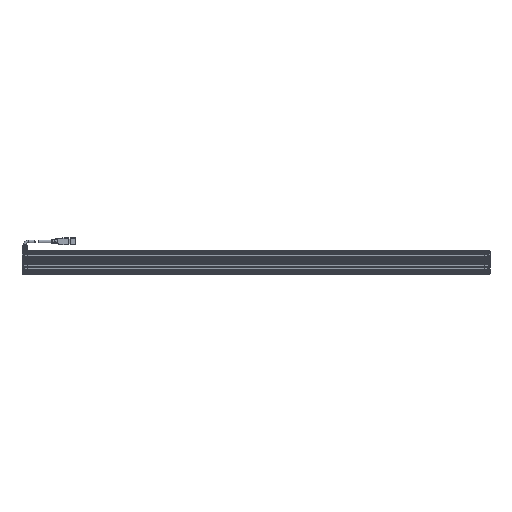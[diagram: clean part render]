
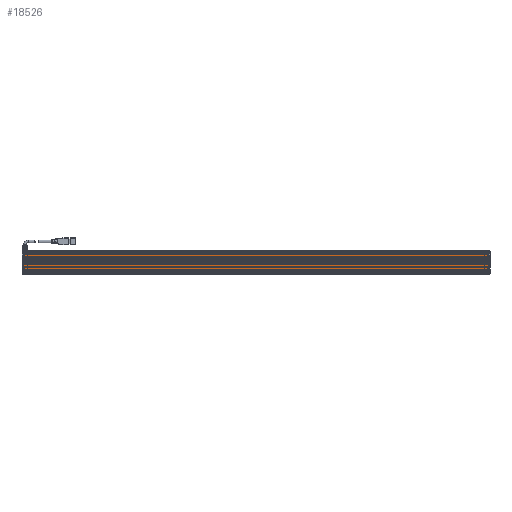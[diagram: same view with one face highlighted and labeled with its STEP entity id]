
A CAD part, front view. The second image highlights one B-rep face of the part: STEP entity #18526.
In plain terms, the highlighted planar face has unit normal (0, -1, 0).
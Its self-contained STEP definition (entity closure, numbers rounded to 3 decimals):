
#111 = ORIENTED_EDGE ( 'NONE', *, *, #5428, .F. ) ;
#325 = VERTEX_POINT ( 'NONE', #8351 ) ;
#560 = EDGE_LOOP ( 'NONE', ( #111, #10983, #11032, #6201 ) ) ;
#934 = AXIS2_PLACEMENT_3D ( 'NONE', #13568, #12241, #4583 ) ;
#1092 = LINE ( 'NONE', #4118, #3653 ) ;
#1277 = EDGE_CURVE ( 'NONE', #13866, #12009, #5591, .T. ) ;
#1323 = VECTOR ( 'NONE', #2412, 1000. ) ;
#1531 = AXIS2_PLACEMENT_3D ( 'NONE', #4720, #9440, #15321 ) ;
#1820 = DIRECTION ( 'NONE',  ( 0., 1., 0. ) ) ;
#2362 = EDGE_CURVE ( 'NONE', #16977, #15222, #7870, .T. ) ;
#2412 = DIRECTION ( 'NONE',  ( 0., 0., 1. ) ) ;
#2452 = EDGE_CURVE ( 'NONE', #15222, #12494, #1092, .T. ) ;
#2480 = VERTEX_POINT ( 'NONE', #7110 ) ;
#2651 = DIRECTION ( 'NONE',  ( 0., -1., 0. ) ) ;
#2711 = EDGE_CURVE ( 'NONE', #2480, #325, #3170, .T. ) ;
#2912 = CARTESIAN_POINT ( 'NONE',  ( -8.244, 13.478, 200. ) ) ;
#3170 = CIRCLE ( 'NONE', #15385, 1.3 ) ;
#3212 = AXIS2_PLACEMENT_3D ( 'NONE', #12124, #9161, #13581 ) ;
#3445 = DIRECTION ( 'NONE',  ( 0., 0., -1. ) ) ;
#3653 = VECTOR ( 'NONE', #13306, 1000. ) ;
#3680 = ORIENTED_EDGE ( 'NONE', *, *, #2711, .T. ) ;
#3796 = CARTESIAN_POINT ( 'NONE',  ( -366.244, 13.478, 216.6 ) ) ;
#3803 = CARTESIAN_POINT ( 'NONE',  ( 349.756, 13.478, 183.4 ) ) ;
#3866 = CARTESIAN_POINT ( 'NONE',  ( -366.244, 13.478, 183.4 ) ) ;
#4118 = CARTESIAN_POINT ( 'NONE',  ( -366.244, 13.478, 216.6 ) ) ;
#4355 = PLANE ( 'NONE',  #15110 ) ;
#4550 = CARTESIAN_POINT ( 'NONE',  ( -366.244, 13.478, 216.6 ) ) ;
#4583 = DIRECTION ( 'NONE',  ( 0., 0., 1. ) ) ;
#4720 = CARTESIAN_POINT ( 'NONE',  ( 346.756, 13.478, 200. ) ) ;
#5044 = CARTESIAN_POINT ( 'NONE',  ( 346.756, 13.478, 198.7 ) ) ;
#5171 = FACE_OUTER_BOUND ( 'NONE', #560, .T. ) ;
#5307 = ORIENTED_EDGE ( 'NONE', *, *, #10272, .T. ) ;
#5428 = EDGE_CURVE ( 'NONE', #12494, #15579, #18172, .T. ) ;
#5591 = CIRCLE ( 'NONE', #934, 1.3 ) ;
#6201 = ORIENTED_EDGE ( 'NONE', *, *, #7749, .F. ) ;
#7110 = CARTESIAN_POINT ( 'NONE',  ( -363.244, 13.478, 198.7 ) ) ;
#7127 = LINE ( 'NONE', #3866, #11884 ) ;
#7382 = ORIENTED_EDGE ( 'NONE', *, *, #12763, .T. ) ;
#7694 = CARTESIAN_POINT ( 'NONE',  ( -363.244, 13.478, 200. ) ) ;
#7749 = EDGE_CURVE ( 'NONE', #15579, #16977, #7127, .T. ) ;
#7870 = LINE ( 'NONE', #3796, #1323 ) ;
#7874 = CIRCLE ( 'NONE', #1531, 1.3 ) ;
#8114 = EDGE_LOOP ( 'NONE', ( #5307, #8759 ) ) ;
#8261 = CARTESIAN_POINT ( 'NONE',  ( 349.756, 13.478, 216.6 ) ) ;
#8351 = CARTESIAN_POINT ( 'NONE',  ( -363.244, 13.478, 201.3 ) ) ;
#8759 = ORIENTED_EDGE ( 'NONE', *, *, #1277, .T. ) ;
#9161 = DIRECTION ( 'NONE',  ( 0., 1., 0. ) ) ;
#9440 = DIRECTION ( 'NONE',  ( 0., 1., 0. ) ) ;
#9892 = DIRECTION ( 'NONE',  ( -1., 0., 0. ) ) ;
#10211 = EDGE_LOOP ( 'NONE', ( #3680, #7382 ) ) ;
#10272 = EDGE_CURVE ( 'NONE', #12009, #13866, #7874, .T. ) ;
#10983 = ORIENTED_EDGE ( 'NONE', *, *, #2452, .F. ) ;
#11032 = ORIENTED_EDGE ( 'NONE', *, *, #2362, .F. ) ;
#11276 = VECTOR ( 'NONE', #19162, 1000. ) ;
#11884 = VECTOR ( 'NONE', #9892, 1000. ) ;
#12009 = VERTEX_POINT ( 'NONE', #5044 ) ;
#12124 = CARTESIAN_POINT ( 'NONE',  ( -363.244, 13.478, 200. ) ) ;
#12241 = DIRECTION ( 'NONE',  ( 0., 1., 0. ) ) ;
#12422 = CIRCLE ( 'NONE', #3212, 1.3 ) ;
#12494 = VERTEX_POINT ( 'NONE', #8261 ) ;
#12743 = FACE_BOUND ( 'NONE', #10211, .T. ) ;
#12763 = EDGE_CURVE ( 'NONE', #325, #2480, #12422, .T. ) ;
#13225 = FACE_BOUND ( 'NONE', #8114, .T. ) ;
#13306 = DIRECTION ( 'NONE',  ( 1., 0., 0. ) ) ;
#13568 = CARTESIAN_POINT ( 'NONE',  ( 346.756, 13.478, 200. ) ) ;
#13581 = DIRECTION ( 'NONE',  ( 0., 0., -1. ) ) ;
#13866 = VERTEX_POINT ( 'NONE', #18041 ) ;
#14493 = CARTESIAN_POINT ( 'NONE',  ( 349.756, 13.478, 216.6 ) ) ;
#14858 = DIRECTION ( 'NONE',  ( 0., 0., -1. ) ) ;
#15110 = AXIS2_PLACEMENT_3D ( 'NONE', #2912, #2651, #14858 ) ;
#15196 = CARTESIAN_POINT ( 'NONE',  ( -366.244, 13.478, 183.4 ) ) ;
#15222 = VERTEX_POINT ( 'NONE', #4550 ) ;
#15321 = DIRECTION ( 'NONE',  ( 0., 0., 1. ) ) ;
#15385 = AXIS2_PLACEMENT_3D ( 'NONE', #7694, #1820, #3445 ) ;
#15579 = VERTEX_POINT ( 'NONE', #3803 ) ;
#16977 = VERTEX_POINT ( 'NONE', #15196 ) ;
#18041 = CARTESIAN_POINT ( 'NONE',  ( 346.756, 13.478, 201.3 ) ) ;
#18172 = LINE ( 'NONE', #14493, #11276 ) ;
#18526 = ADVANCED_FACE ( 'NONE', ( #13225, #5171, #12743 ), #4355, .T. ) ;
#19162 = DIRECTION ( 'NONE',  ( 0., 0., -1. ) ) ;
